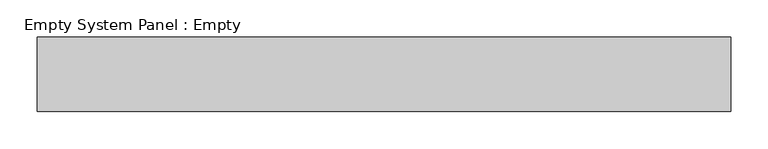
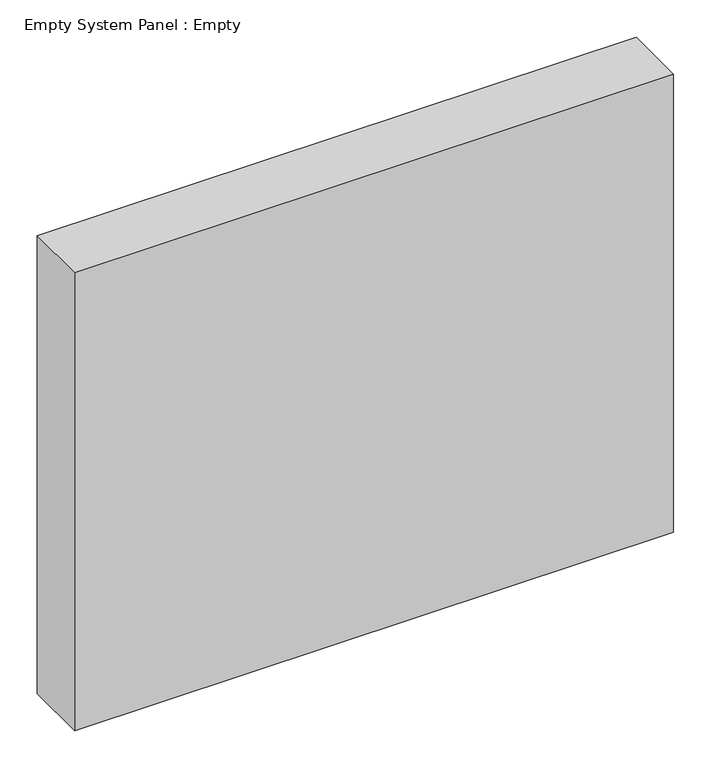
"""IFC4 building model written with IfcOpenShell, lengths in millimetres: plate geometry, Empty System Panel : Empty."""

from ifc_helpers import new_model, si_unit, origin, origin_with_axes, place, context, project, spatial, polyline, outline, extrude, source, transform, mapped, element, save


def empty_system_panel_empty_2dd24dd9(model_context):
    return source(origin(), model_context, "Body", "SweptSolid", [
        extrude(outline(polyline([(464.2950184, -50.0), (-464.2950184, -50.0), (-464.2950184, 50.0), (464.2950184, 50.0), (464.2950184, -50.0)])), origin_with_axes(), (0.0, 0.0, 1.0), 750.0),
    ])


if __name__ == "__main__":
    model = new_model("IFC4")
    model_context = context("Model", 3, world=origin())
    ifc_project = project(units=[si_unit("LENGTHUNIT", "METRE", prefix="MILLI")], contexts=[model_context])
    site = spatial("IfcSite", under=ifc_project)
    building = spatial("IfcBuilding", under=site)
    placement = place(None, origin())
    empty_system_panel_empty_shape = empty_system_panel_empty_2dd24dd9(model_context)
    element("IfcPlate", 1, ObjectType="Empty System Panel : Empty", at=placement, inside=building, context=model_context, shape_type="MappedRepresentation", body=[
        mapped(empty_system_panel_empty_shape, transform((0.0, 0.0, 0.0), x_axis=(1.0, 0.0, 0.0), y_axis=(0.0, 1.0, 0.0), z_axis=(0.0, 0.0, 1.0))),
    ])
    save(model, "model.ifc")
